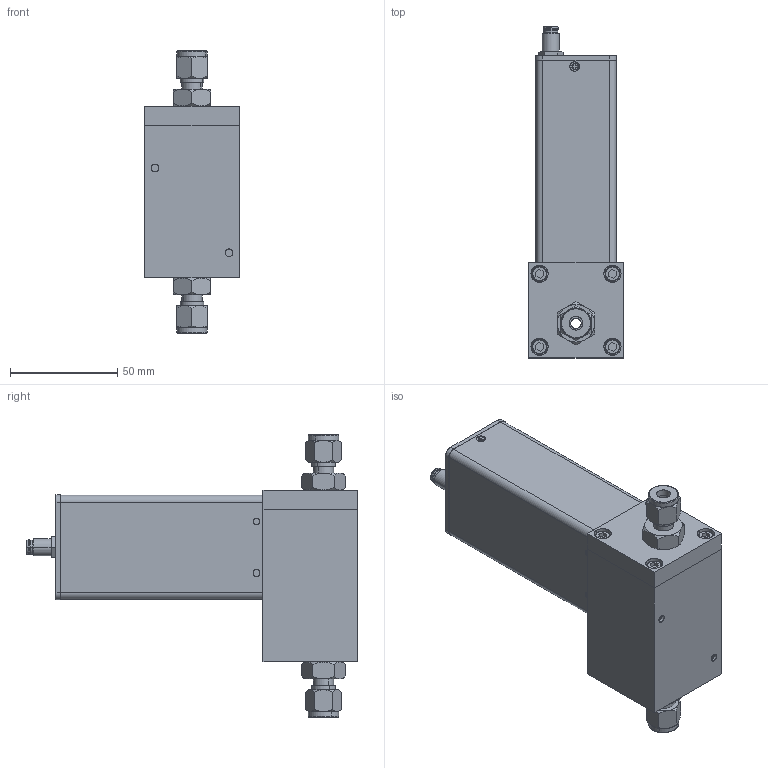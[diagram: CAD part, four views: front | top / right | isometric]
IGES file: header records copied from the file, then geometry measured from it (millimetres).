
Start section: SolidWorks IGES file using analytic representation for surfaces
Global section: file name: G:\Engineering\CAD MODELS FOR SALES\CAD MODEL STORAGE\SLA\SLA5861\CUSTOMER FILES\IGES\SLA5861-E-1B-0-A-REVB.IGS; native system: SolidWorks 2020; preprocessor: SolidWorks 2020; author: CFehr; date: 230425.115329; units: inch
Bounding box: 44.17 x 154.43 x 131.32 mm (x, y, z)
Surface area: 82654.1 mm2 (no closed solid volume)
Topology: 0 solids, 0 shells, 1879 faces, 17796 edges, 17772 vertices
Faces by surface type: bspline 1254, revolution 625
